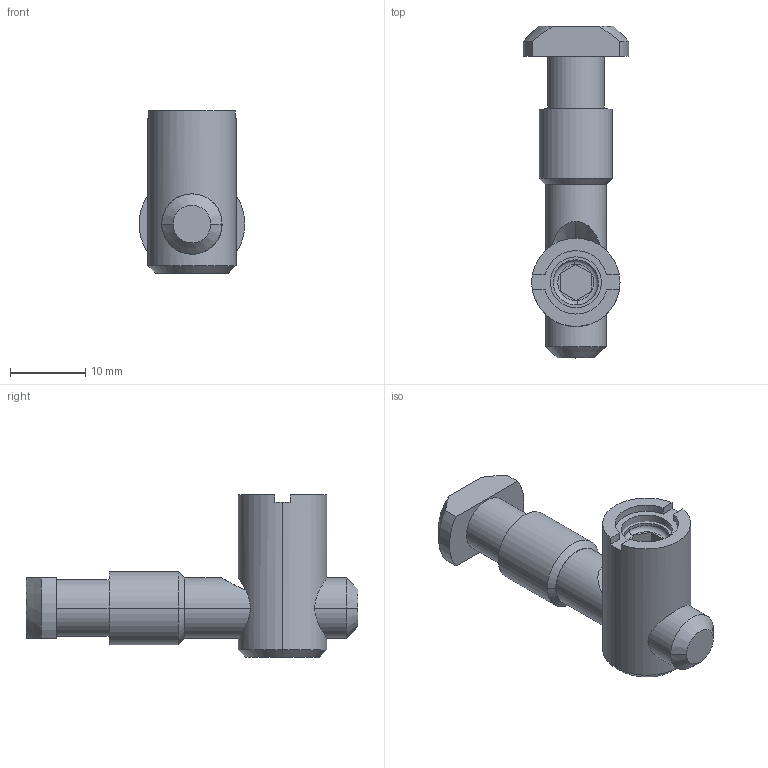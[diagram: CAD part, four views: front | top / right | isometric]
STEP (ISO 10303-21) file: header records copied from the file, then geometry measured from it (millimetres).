
FILE_DESCRIPTION (( 'STEP AP214' ), '1' );
FILE_NAME ('SNSD.30.50.05 Óãëîâîé ñîåäèíèòåëü 90 ãðàäóñîâ, ïàç 8(B60).STEP', '2014-11-13T13:31:43', ( 'XTreme.ws' ), ( 'XTreme.ws' ), 'SwSTEP 2.0', 'SolidWorks 2014', '' );
FILE_SCHEMA (( 'AUTOMOTIVE_DESIGN' ));
Length unit declared in the file: millimetre
Products named in the file (4): SNSD.30.50.05  Óãëîâîé ñîåäèíèòåëü 90 ãðàäóñîâ, ïàç 8(B60); SNSD.30.50.19 眈錼鐻00; SNSD.30.50.21 栺魛鳧_00; SNSD.30.50.18 鎔艜_00
Assembly tree (3 placements, depth 2):
  SNSD.30.50.05  Óãëîâîé ñîåäèíèòåëü 90 ãðàäóñîâ, ïàç 8(B60)
    SNSD.30.50.19 眈錼鐻00
    SNSD.30.50.18 鎔艜_00
    SNSD.30.50.21 栺魛鳧_00
Bounding box: 13.97 x 44 x 21.5 mm (x, y, z)
Volume: 4124.5 mm3; surface area: 3128.2 mm2
Topology: 3 solids, 3 shells, 61 faces, 137 edges, 88 vertices
Faces by surface type: plane 26, cylinder 21, cone 12, torus 2
Entity records: 2181 total; most frequent: CARTESIAN_POINT 606, DIRECTION 315, ORIENTED_EDGE 274, EDGE_CURVE 137, AXIS2_PLACEMENT_3D 123, VERTEX_POINT 88, EDGE_LOOP 71, LINE 69
